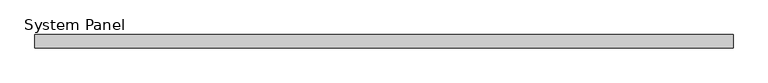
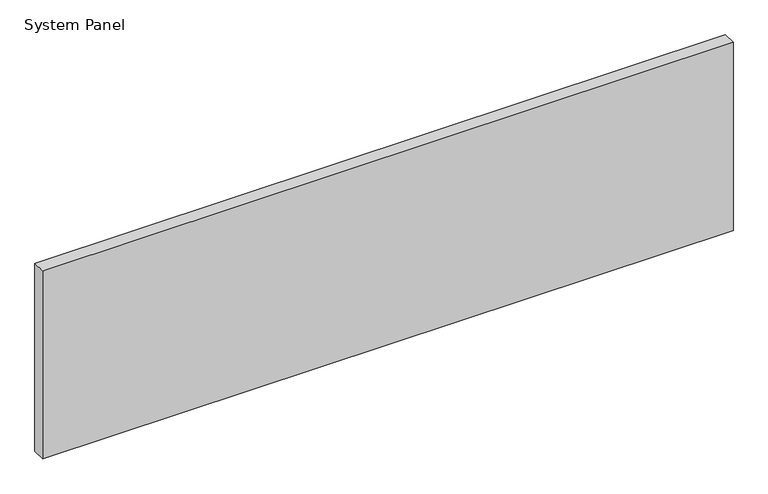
"""IFC4 building model written with IfcOpenShell, lengths in millimetres: plate geometry, System Panel : Glazed - ACMP (AL-1)."""

from ifc_helpers import new_model, si_unit, origin, origin_with_axes, place, context, project, spatial, polyline, outline, extrude, source, transform, mapped, element, save


def system_panel_3c7c0ff6(model_context):
    return source(origin(), model_context, "Body", "SweptSolid", [
        extrude(outline(polyline([(663.2041426, 0.0), (-663.2041426, 0.0), (-663.2041426, 25.4), (663.2041426, 25.4), (663.2041426, 0.0)])), origin_with_axes(), (0.0, 0.0, 1.0), 382.2704451),
    ])


if __name__ == "__main__":
    model = new_model("IFC4")
    model_context = context("Model", 3, world=origin())
    ifc_project = project(units=[si_unit("LENGTHUNIT", "METRE", prefix="MILLI")], contexts=[model_context])
    site = spatial("IfcSite", under=ifc_project)
    building = spatial("IfcBuilding", under=site)
    placement = place(None, origin())
    system_panel_shape = system_panel_3c7c0ff6(model_context)
    element("IfcPlate", 1, ObjectType="System Panel : Glazed - ACMP (AL-1)", at=placement, inside=building, context=model_context, shape_type="MappedRepresentation", body=[
        mapped(system_panel_shape, transform((0.0, 0.0, 0.0), x_axis=(1.0, 0.0, 0.0), y_axis=(0.0, 1.0, 0.0), z_axis=(0.0, 0.0, 1.0))),
    ])
    save(model, "model.ifc")
